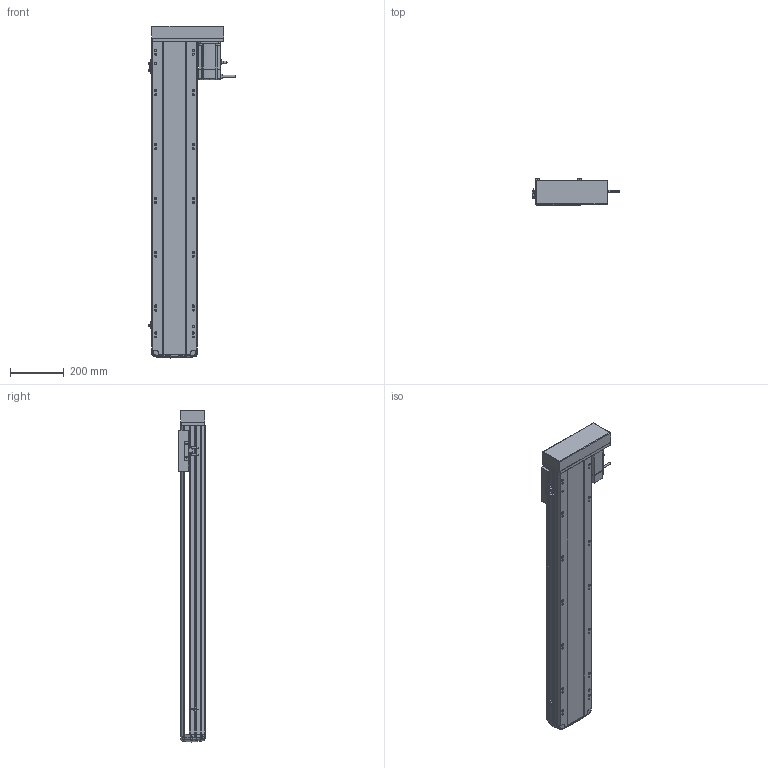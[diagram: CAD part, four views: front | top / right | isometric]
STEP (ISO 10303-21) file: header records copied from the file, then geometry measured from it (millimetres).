
FILE_DESCRIPTION (( 'STEP AP214' ), '1' );
FILE_NAME ('RTH17-XX-950-L-M75-C4.STEP', '2025-10-24T10:35:13', ( '' ), ( '' ), 'SwSTEP 2.0', 'SolidWorks 2018', '' );
FILE_SCHEMA (( 'AUTOMOTIVE_DESIGN' ));
Length unit declared in the file: millimetre
Products named in the file (10): N_RTH17-L-008-P75电机安装板左转折^RTH17-XX-XX-L-M75-C4（方程式）; N_RTH-L-012 感应片(外置)^RTH17-XX-XX-L-M75-C4（方程式）; N_M75^RTH17-XX-XX-L-M75-C4（方程式）; RTH17-XX-950-L-M75-C4; N_RTH17-M-007上盖^RTH17-XX-XX-L-M75-C4（方程式）; N_OMRON EE-SX672 換覜ん^RTH17-XX-XX-L-M75-C4ㄗ源最宒ㄘ; N_RTH17-E-004丝杆螺母连接座^RTH17-XX-XX-L-M75-C4（方程式）; N_RTH17-L-018盖子^RTH17-XX-XX-L-M75-C4（方程式）; N_RTH17-M-011底座^RTH17-XX-XX-L-M75-C4（方程式）; N_RTH17-GY-001P^RTH17-XX-XX-L-M75-C4（方程式）
Assembly tree (11 placements, depth 2):
  RTH17-XX-950-L-M75-C4
    N_RTH17-M-011底座^RTH17-XX-XX-L-M75-C4（方程式）
    N_RTH17-M-007上盖^RTH17-XX-XX-L-M75-C4（方程式）
    N_M75^RTH17-XX-XX-L-M75-C4（方程式）
    N_OMRON EE-SX672 換覜ん^RTH17-XX-XX-L-M75-C4ㄗ源最宒ㄘ  x3
    N_RTH-L-012 感应片(外置)^RTH17-XX-XX-L-M75-C4（方程式）
    N_RTH17-L-008-P75电机安装板左转折^RTH17-XX-XX-L-M75-C4（方程式）
    N_RTH17-L-018盖子^RTH17-XX-XX-L-M75-C4（方程式）
    N_RTH17-E-004丝杆螺母连接座^RTH17-XX-XX-L-M75-C4（方程式）
    N_RTH17-GY-001P^RTH17-XX-XX-L-M75-C4（方程式）
Bounding box: 326.7 x 97 x 1232.99 mm (x, y, z)
Volume: 10910040.6 mm3; surface area: 1367674.8 mm2
Topology: 13 solids, 15 shells, 1773 faces, 4889 edges, 3166 vertices
Faces by surface type: plane 835, cylinder 524, bspline 377, cone 28, torus 9
Entity records: 51993 total; most frequent: CARTESIAN_POINT 20749, ORIENTED_EDGE 6802, DIRECTION 5653, EDGE_CURVE 3405, VERTEX_POINT 2202, AXIS2_PLACEMENT_3D 1909, LINE 1835, VECTOR 1835
